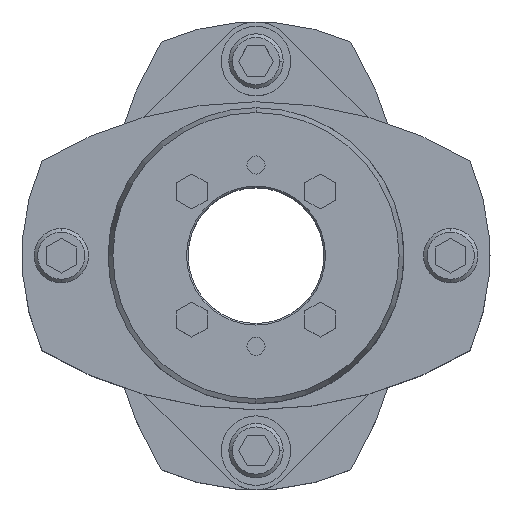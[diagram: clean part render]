
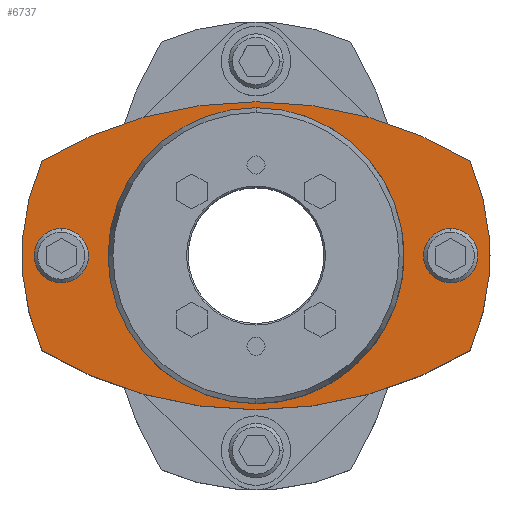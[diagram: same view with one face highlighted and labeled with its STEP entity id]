
A CAD part, top view. The second image highlights one B-rep face of the part: STEP entity #6737.
In plain terms, the highlighted planar face has unit normal (0, 0, 1).
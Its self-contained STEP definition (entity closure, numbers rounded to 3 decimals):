
#1593=CARTESIAN_POINT('',(0.,51.,42.0));
#1594=VERTEX_POINT('',#1593);
#1610=CARTESIAN_POINT('',(-70.841,31.43,42.0));
#1611=VERTEX_POINT('',#1610);
#1618=CARTESIAN_POINT('',(0.,-87.,42.0));
#1619=DIRECTION('',(0.0,0.0,-1.0));
#1620=DIRECTION('',(0.0,1.0,0.0));
#1621=AXIS2_PLACEMENT_3D('',#1618,#1619,#1620);
#1622=CIRCLE('',#1621,138.);
#1623=EDGE_CURVE('',#1611,#1594,#1622,.T.);
#1633=CARTESIAN_POINT('',(0.,-51.,42.0));
#1634=VERTEX_POINT('',#1633);
#1643=CARTESIAN_POINT('',(-70.841,-31.43,42.0));
#1644=VERTEX_POINT('',#1643);
#1645=CARTESIAN_POINT('',(0.,87.,42.0));
#1646=DIRECTION('',(0.0,0.0,-1.0));
#1647=DIRECTION('',(0.0,1.0,0.0));
#1648=AXIS2_PLACEMENT_3D('',#1645,#1646,#1647);
#1649=CIRCLE('',#1648,138.);
#1650=EDGE_CURVE('',#1634,#1644,#1649,.T.);
#1899=CARTESIAN_POINT('',(0.,36.,42.0));
#1900=VERTEX_POINT('',#1899);
#1950=CARTESIAN_POINT('',(0.,-36.,42.0));
#1951=VERTEX_POINT('',#1950);
#1958=CARTESIAN_POINT('',(0.,0.,42.0));
#1959=DIRECTION('',(0.0,0.0,-1.0));
#1960=DIRECTION('',(0.0,1.0,0.0));
#1961=AXIS2_PLACEMENT_3D('',#1958,#1959,#1960);
#1962=CIRCLE('',#1961,36.0);
#1963=EDGE_CURVE('',#1900,#1951,#1962,.T.);
#2059=CARTESIAN_POINT('',(-64.5,9.,42.0));
#2060=VERTEX_POINT('',#2059);
#2076=CARTESIAN_POINT('',(-64.5,-9.,42.0));
#2077=VERTEX_POINT('',#2076);
#2084=CARTESIAN_POINT('',(-64.5,0.,42.0));
#2085=DIRECTION('',(0.0,0.0,-1.0));
#2086=DIRECTION('',(0.0,1.0,0.0));
#2087=AXIS2_PLACEMENT_3D('',#2084,#2085,#2086);
#2088=CIRCLE('',#2087,9.0);
#2089=EDGE_CURVE('',#2060,#2077,#2088,.T.);
#2133=CARTESIAN_POINT('',(64.5,9.,42.0));
#2134=VERTEX_POINT('',#2133);
#2150=CARTESIAN_POINT('',(64.5,-9.,42.0));
#2151=VERTEX_POINT('',#2150);
#2158=CARTESIAN_POINT('',(64.5,0.,42.0));
#2159=DIRECTION('',(0.0,0.0,-1.0));
#2160=DIRECTION('',(0.0,1.0,0.0));
#2161=AXIS2_PLACEMENT_3D('',#2158,#2159,#2160);
#2162=CIRCLE('',#2161,9.0);
#2163=EDGE_CURVE('',#2134,#2151,#2162,.T.);
#5278=CARTESIAN_POINT('',(64.5,0.,42.0));
#5279=DIRECTION('',(0.0,0.0,-1.0));
#5280=DIRECTION('',(0.0,1.0,0.0));
#5281=AXIS2_PLACEMENT_3D('',#5278,#5279,#5280);
#5282=CIRCLE('',#5281,9.0);
#5283=EDGE_CURVE('',#2151,#2134,#5282,.T.);
#5338=CARTESIAN_POINT('',(-64.5,0.,42.0));
#5339=DIRECTION('',(0.0,0.0,-1.0));
#5340=DIRECTION('',(0.0,1.0,0.0));
#5341=AXIS2_PLACEMENT_3D('',#5338,#5339,#5340);
#5342=CIRCLE('',#5341,9.0);
#5343=EDGE_CURVE('',#2077,#2060,#5342,.T.);
#6410=CARTESIAN_POINT('',(0.,0.,42.0));
#6411=DIRECTION('',(0.0,0.0,-1.0));
#6412=DIRECTION('',(0.0,1.0,0.0));
#6413=AXIS2_PLACEMENT_3D('',#6410,#6411,#6412);
#6414=CIRCLE('',#6413,36.0);
#6415=EDGE_CURVE('',#1951,#1900,#6414,.T.);
#6631=CARTESIAN_POINT('',(70.841,31.43,42.0));
#6632=VERTEX_POINT('',#6631);
#6633=CARTESIAN_POINT('',(70.841,-31.43,42.0));
#6634=VERTEX_POINT('',#6633);
#6635=CARTESIAN_POINT('',(0.,0.,42.0));
#6636=DIRECTION('',(0.0,0.0,-1.0));
#6637=DIRECTION('',(0.0,1.0,0.0));
#6638=AXIS2_PLACEMENT_3D('',#6635,#6636,#6637);
#6639=CIRCLE('',#6638,77.5);
#6640=EDGE_CURVE('',#6632,#6634,#6639,.T.);
#6666=CARTESIAN_POINT('',(0.,87.,42.0));
#6667=DIRECTION('',(0.0,0.0,-1.0));
#6668=DIRECTION('',(0.0,1.0,0.0));
#6669=AXIS2_PLACEMENT_3D('',#6666,#6667,#6668);
#6670=CIRCLE('',#6669,138.);
#6671=EDGE_CURVE('',#6634,#1634,#6670,.T.);
#6681=CARTESIAN_POINT('',(0.,0.,42.0));
#6682=DIRECTION('',(0.0,0.0,-1.0));
#6683=DIRECTION('',(0.0,1.0,0.0));
#6684=AXIS2_PLACEMENT_3D('',#6681,#6682,#6683);
#6685=CIRCLE('',#6684,77.5);
#6686=EDGE_CURVE('',#1644,#1611,#6685,.T.);
#6700=CARTESIAN_POINT('',(0.,-87.,42.0));
#6701=DIRECTION('',(0.0,0.0,-1.0));
#6702=DIRECTION('',(0.0,1.0,0.0));
#6703=AXIS2_PLACEMENT_3D('',#6700,#6701,#6702);
#6704=CIRCLE('',#6703,138.);
#6705=EDGE_CURVE('',#1594,#6632,#6704,.T.);
#6712=CARTESIAN_POINT('',(0.,0.,42.0));
#6713=DIRECTION('',(0.0,0.0,1.0));
#6714=DIRECTION('',(0.0,1.0,0.0));
#6715=AXIS2_PLACEMENT_3D('',#6712,#6713,#6714);
#6716=PLANE('',#6715);
#6717=ORIENTED_EDGE('',*,*,#6640,.F.);
#6718=ORIENTED_EDGE('',*,*,#6705,.F.);
#6719=ORIENTED_EDGE('',*,*,#1623,.F.);
#6720=ORIENTED_EDGE('',*,*,#6686,.F.);
#6721=ORIENTED_EDGE('',*,*,#1650,.F.);
#6722=ORIENTED_EDGE('',*,*,#6671,.F.);
#6723=EDGE_LOOP('',(#6717,#6718,#6719,#6720,#6721,#6722));
#6724=FACE_OUTER_BOUND('',#6723,.T.);
#6725=ORIENTED_EDGE('',*,*,#2089,.T.);
#6726=ORIENTED_EDGE('',*,*,#5343,.T.);
#6727=EDGE_LOOP('',(#6725,#6726));
#6728=FACE_BOUND('',#6727,.T.);
#6729=ORIENTED_EDGE('',*,*,#2163,.T.);
#6730=ORIENTED_EDGE('',*,*,#5283,.T.);
#6731=EDGE_LOOP('',(#6729,#6730));
#6732=FACE_BOUND('',#6731,.T.);
#6733=ORIENTED_EDGE('',*,*,#1963,.T.);
#6734=ORIENTED_EDGE('',*,*,#6415,.T.);
#6735=EDGE_LOOP('',(#6733,#6734));
#6736=FACE_BOUND('',#6735,.T.);
#6737=ADVANCED_FACE('',(#6724,#6728,#6732,#6736),#6716,.T.);
